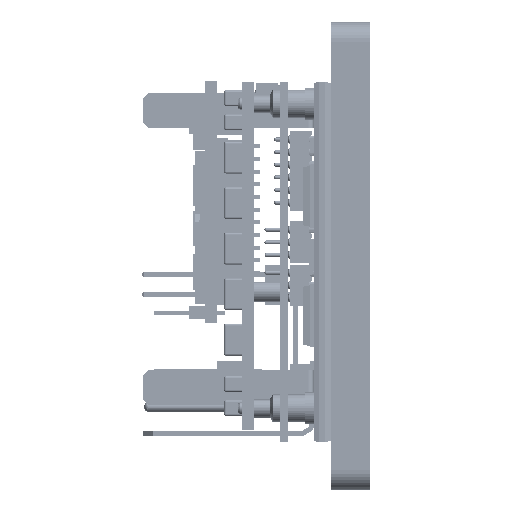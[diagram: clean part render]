
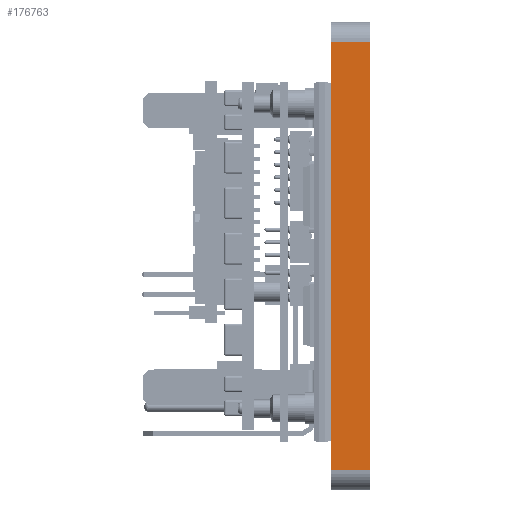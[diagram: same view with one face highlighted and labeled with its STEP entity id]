
A CAD part, left-side view. The second image highlights one B-rep face of the part: STEP entity #176763.
In plain terms, the highlighted planar face has unit normal (-1, 0, 0).
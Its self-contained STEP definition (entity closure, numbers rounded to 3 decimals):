
#19794 = EDGE_CURVE ( 'NONE', #148454, #122010, #163698, .T. ) ;
#20441 = VECTOR ( 'NONE', #105328, 1000. ) ;
#21579 = ORIENTED_EDGE ( 'NONE', *, *, #19794, .F. ) ;
#24336 = EDGE_CURVE ( 'NONE', #241298, #440739, #44707, .T. ) ;
#41880 = CARTESIAN_POINT ( 'NONE',  ( -30.5, -4., 22.1 ) ) ;
#44707 = LINE ( 'NONE', #96415, #372259 ) ;
#54472 = VECTOR ( 'NONE', #466883, 1000. ) ;
#62541 = CARTESIAN_POINT ( 'NONE',  ( -30.5, -4., 22.1 ) ) ;
#96415 = CARTESIAN_POINT ( 'NONE',  ( -30.5, -4., 22.1 ) ) ;
#103574 = CARTESIAN_POINT ( 'NONE',  ( -30.5, -4., 22.1 ) ) ;
#103759 = DIRECTION ( 'NONE',  ( 0., 0., 1. ) ) ;
#105328 = DIRECTION ( 'NONE',  ( 0., 0., 1. ) ) ;
#122010 = VERTEX_POINT ( 'NONE', #217225 ) ;
#148454 = VERTEX_POINT ( 'NONE', #414896 ) ;
#157320 = EDGE_CURVE ( 'NONE', #148454, #241298, #225973, .T. ) ;
#163698 = LINE ( 'NONE', #382559, #54472 ) ;
#173783 = FACE_OUTER_BOUND ( 'NONE', #276572, .T. ) ;
#176763 = ADVANCED_FACE ( 'NONE', ( #173783 ), #513089, .T. ) ;
#178142 = CARTESIAN_POINT ( 'NONE',  ( -30.5, 0., 22.1 ) ) ;
#182774 = VECTOR ( 'NONE', #434662, 1000. ) ;
#184316 = DIRECTION ( 'NONE',  ( 0., 1., 0. ) ) ;
#192287 = ORIENTED_EDGE ( 'NONE', *, *, #157320, .T. ) ;
#217225 = CARTESIAN_POINT ( 'NONE',  ( -30.5, 0., -20.9 ) ) ;
#225973 = LINE ( 'NONE', #103574, #20441 ) ;
#231790 = AXIS2_PLACEMENT_3D ( 'NONE', #62541, #349729, #103759 ) ;
#237966 = ORIENTED_EDGE ( 'NONE', *, *, #24336, .T. ) ;
#241298 = VERTEX_POINT ( 'NONE', #41880 ) ;
#276572 = EDGE_LOOP ( 'NONE', ( #484388, #21579, #192287, #237966 ) ) ;
#291958 = LINE ( 'NONE', #178142, #182774 ) ;
#314784 = EDGE_CURVE ( 'NONE', #122010, #440739, #291958, .T. ) ;
#325895 = CARTESIAN_POINT ( 'NONE',  ( -30.5, 0., 22.1 ) ) ;
#349729 = DIRECTION ( 'NONE',  ( -1., 0., 0. ) ) ;
#372259 = VECTOR ( 'NONE', #184316, 1000. ) ;
#382559 = CARTESIAN_POINT ( 'NONE',  ( -30.5, -4., -20.9 ) ) ;
#414896 = CARTESIAN_POINT ( 'NONE',  ( -30.5, -4., -20.9 ) ) ;
#434662 = DIRECTION ( 'NONE',  ( 0., 0., 1. ) ) ;
#440739 = VERTEX_POINT ( 'NONE', #325895 ) ;
#466883 = DIRECTION ( 'NONE',  ( 0., 1., 0. ) ) ;
#484388 = ORIENTED_EDGE ( 'NONE', *, *, #314784, .F. ) ;
#513089 = PLANE ( 'NONE',  #231790 ) ;
